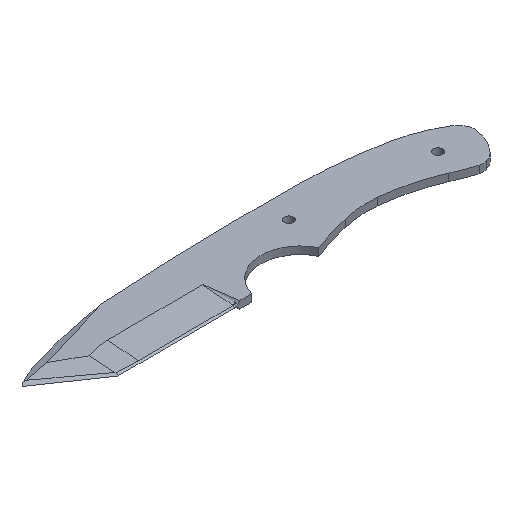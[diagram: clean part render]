
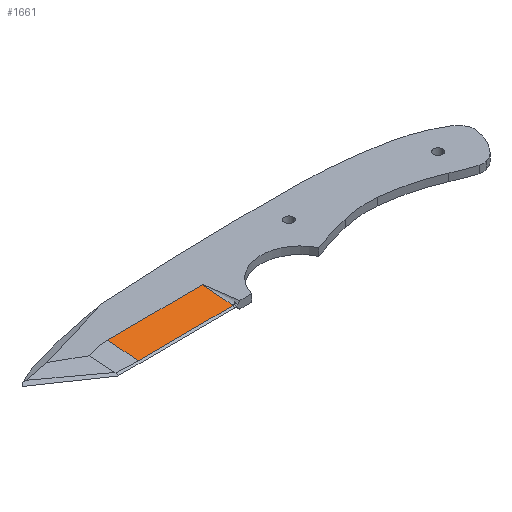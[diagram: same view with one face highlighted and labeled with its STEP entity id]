
A CAD part, isometric view. The second image highlights one B-rep face of the part: STEP entity #1661.
In plain terms, the highlighted planar face has unit normal (0.001, -0.087, 0.996).
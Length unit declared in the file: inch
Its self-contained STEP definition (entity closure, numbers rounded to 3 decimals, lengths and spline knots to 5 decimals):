
#25 = ORIENTED_EDGE ( 'NONE', *, *, #125, .T. ) ;
#43 = LINE ( 'NONE', #1000, #88 ) ;
#46 = DIRECTION ( 'NONE',  ( 1., 0.006, 0. ) ) ;
#88 = VECTOR ( 'NONE', #434, 39.37008 ) ;
#113 = EDGE_CURVE ( 'NONE', #1529, #1641, #424, .T. ) ;
#125 = EDGE_CURVE ( 'NONE', #142, #1529, #924, .T. ) ;
#138 = CARTESIAN_POINT ( 'NONE',  ( 1.96593, 2.11414, 0.01768 ) ) ;
#142 = VERTEX_POINT ( 'NONE', #470 ) ;
#277 = FACE_OUTER_BOUND ( 'NONE', #1382, .T. ) ;
#424 = LINE ( 'NONE', #1387, #809 ) ;
#434 = DIRECTION ( 'NONE',  ( -1., -0.006, 0. ) ) ;
#470 = CARTESIAN_POINT ( 'NONE',  ( 1.96277, 2.62643, 0.0625 ) ) ;
#491 = CARTESIAN_POINT ( 'NONE',  ( 3.5621, 2.09334, 0.015 ) ) ;
#516 = CARTESIAN_POINT ( 'NONE',  ( 3.55875, 2.63626, 0.0625 ) ) ;
#550 = DIRECTION ( 'NONE',  ( 0., 0.996, 0.087 ) ) ;
#556 = CARTESIAN_POINT ( 'NONE',  ( 1.96611, 2.08352, 0.015 ) ) ;
#681 = VECTOR ( 'NONE', #1026, 39.37008 ) ;
#704 = CARTESIAN_POINT ( 'NONE',  ( 3.56191, 2.12396, 0.01768 ) ) ;
#783 = DIRECTION ( 'NONE',  ( 0.006, -0.996, -0.087 ) ) ;
#796 = VERTEX_POINT ( 'NONE', #516 ) ;
#809 = VECTOR ( 'NONE', #46, 39.37008 ) ;
#819 = PLANE ( 'NONE',  #1421 ) ;
#924 = LINE ( 'NONE', #1545, #681 ) ;
#985 = EDGE_CURVE ( 'NONE', #796, #142, #43, .T. ) ;
#1000 = CARTESIAN_POINT ( 'NONE',  ( 6.73519, 2.65581, 0.0625 ) ) ;
#1026 = DIRECTION ( 'NONE',  ( 0.006, -0.996, -0.087 ) ) ;
#1067 = DIRECTION ( 'NONE',  ( -0.001, 0.087, -0.996 ) ) ;
#1094 = EDGE_CURVE ( 'NONE', #796, #1641, #1437, .T. ) ;
#1382 = EDGE_LOOP ( 'NONE', ( #1444, #1487, #1672, #25 ) ) ;
#1387 = CARTESIAN_POINT ( 'NONE',  ( 1.96593, 2.11414, 0.01768 ) ) ;
#1421 = AXIS2_PLACEMENT_3D ( 'NONE', #556, #1067, #550 ) ;
#1437 = LINE ( 'NONE', #491, #1671 ) ;
#1444 = ORIENTED_EDGE ( 'NONE', *, *, #113, .T. ) ;
#1487 = ORIENTED_EDGE ( 'NONE', *, *, #1094, .F. ) ;
#1529 = VERTEX_POINT ( 'NONE', #138 ) ;
#1545 = CARTESIAN_POINT ( 'NONE',  ( 1.96611, 2.08352, 0.015 ) ) ;
#1641 = VERTEX_POINT ( 'NONE', #704 ) ;
#1661 = ADVANCED_FACE ( 'NONE', ( #277 ), #819, .F. ) ;
#1671 = VECTOR ( 'NONE', #783, 39.37008 ) ;
#1672 = ORIENTED_EDGE ( 'NONE', *, *, #985, .T. ) ;
